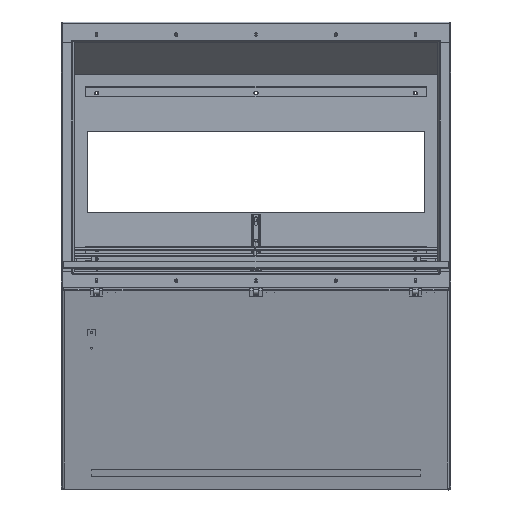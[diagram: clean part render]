
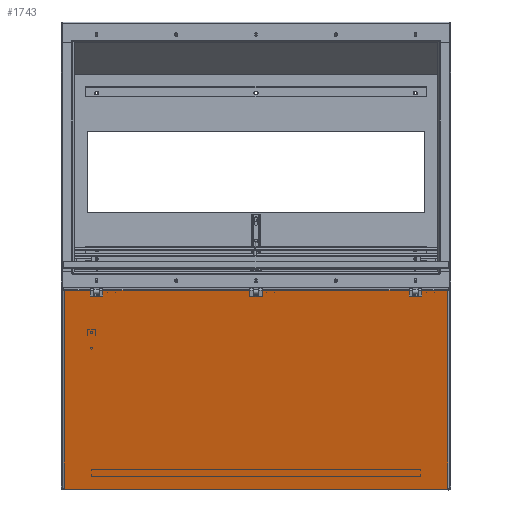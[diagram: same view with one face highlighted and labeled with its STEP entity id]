
A CAD part, top view. The second image highlights one B-rep face of the part: STEP entity #1743.
In plain terms, the highlighted planar face has unit normal (0, -0.208, 0.978) as drawn and (0, -1, 0) by its records, which use the part's own axes.
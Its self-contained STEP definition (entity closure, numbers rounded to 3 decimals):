
#1743 = ADVANCED_FACE( '', ( #2566 ), #2567, .T. );
#2566 = FACE_OUTER_BOUND( '', #4139, .T. );
#2567 = PLANE( '', #4140 );
#4139 = EDGE_LOOP( '', ( #7153, #7154, #7155, #7156, #7157, #7158, #7159, #7160, #7161, #7162, #7163, #7164, #7165, #7166, #7167, #7168 ) );
#4140 = AXIS2_PLACEMENT_3D( '', #7169, #7170, #7171 );
#7153 = ORIENTED_EDGE( '', *, *, #12210, .T. );
#7154 = ORIENTED_EDGE( '', *, *, #12211, .T. );
#7155 = ORIENTED_EDGE( '', *, *, #12212, .T. );
#7156 = ORIENTED_EDGE( '', *, *, #12213, .F. );
#7157 = ORIENTED_EDGE( '', *, *, #12214, .T. );
#7158 = ORIENTED_EDGE( '', *, *, #12215, .T. );
#7159 = ORIENTED_EDGE( '', *, *, #12216, .T. );
#7160 = ORIENTED_EDGE( '', *, *, #12217, .T. );
#7161 = ORIENTED_EDGE( '', *, *, #12218, .T. );
#7162 = ORIENTED_EDGE( '', *, *, #12219, .T. );
#7163 = ORIENTED_EDGE( '', *, *, #12220, .T. );
#7164 = ORIENTED_EDGE( '', *, *, #12221, .T. );
#7165 = ORIENTED_EDGE( '', *, *, #12222, .T. );
#7166 = ORIENTED_EDGE( '', *, *, #12223, .T. );
#7167 = ORIENTED_EDGE( '', *, *, #12224, .T. );
#7168 = ORIENTED_EDGE( '', *, *, #12225, .T. );
#7169 = CARTESIAN_POINT( '', ( -454.025, 0., -241.3 ) );
#7170 = DIRECTION( '', ( 0., -1., 0. ) );
#7171 = DIRECTION( '', ( 0., 0., -1. ) );
#12210 = EDGE_CURVE( '', #14018, #14019, #14020, .T. );
#12211 = EDGE_CURVE( '', #14019, #14021, #14022, .T. );
#12212 = EDGE_CURVE( '', #14021, #14023, #14024, .T. );
#12213 = EDGE_CURVE( '', #14025, #14023, #14026, .T. );
#12214 = EDGE_CURVE( '', #14025, #14027, #14028, .T. );
#12215 = EDGE_CURVE( '', #14027, #14029, #14030, .T. );
#12216 = EDGE_CURVE( '', #14029, #14031, #14032, .T. );
#12217 = EDGE_CURVE( '', #14031, #14033, #14034, .T. );
#12218 = EDGE_CURVE( '', #14033, #14035, #14036, .T. );
#12219 = EDGE_CURVE( '', #14035, #14037, #14038, .T. );
#12220 = EDGE_CURVE( '', #14037, #14039, #14040, .T. );
#12221 = EDGE_CURVE( '', #14039, #14041, #14042, .T. );
#12222 = EDGE_CURVE( '', #14041, #14043, #14044, .T. );
#12223 = EDGE_CURVE( '', #14043, #14045, #14046, .T. );
#12224 = EDGE_CURVE( '', #14045, #14047, #14048, .T. );
#12225 = EDGE_CURVE( '', #14047, #14018, #14049, .T. );
#14018 = VERTEX_POINT( '', #16921 );
#14019 = VERTEX_POINT( '', #16922 );
#14020 = LINE( '', #16923, #16924 );
#14021 = VERTEX_POINT( '', #16925 );
#14022 = LINE( '', #16926, #16927 );
#14023 = VERTEX_POINT( '', #16928 );
#14024 = LINE( '', #16929, #16930 );
#14025 = VERTEX_POINT( '', #16931 );
#14026 = LINE( '', #16932, #16933 );
#14027 = VERTEX_POINT( '', #16934 );
#14028 = LINE( '', #16935, #16936 );
#14029 = VERTEX_POINT( '', #16937 );
#14030 = LINE( '', #16938, #16939 );
#14031 = VERTEX_POINT( '', #16940 );
#14032 = LINE( '', #16941, #16942 );
#14033 = VERTEX_POINT( '', #16943 );
#14034 = LINE( '', #16944, #16945 );
#14035 = VERTEX_POINT( '', #16946 );
#14036 = LINE( '', #16947, #16948 );
#14037 = VERTEX_POINT( '', #16949 );
#14038 = LINE( '', #16950, #16951 );
#14039 = VERTEX_POINT( '', #16952 );
#14040 = LINE( '', #16953, #16954 );
#14041 = VERTEX_POINT( '', #16955 );
#14042 = LINE( '', #16956, #16957 );
#14043 = VERTEX_POINT( '', #16958 );
#14044 = LINE( '', #16959, #16960 );
#14045 = VERTEX_POINT( '', #16961 );
#14046 = LINE( '', #16962, #16963 );
#14047 = VERTEX_POINT( '', #16964 );
#14048 = LINE( '', #16965, #16966 );
#14049 = LINE( '', #16967, #16968 );
#16921 = CARTESIAN_POINT( '', ( 384.683, 0., -227.013 ) );
#16922 = CARTESIAN_POINT( '', ( 384.683, 0., -238.557 ) );
#16923 = CARTESIAN_POINT( '', ( 384.683, 0., -241.3 ) );
#16924 = VECTOR( '', #21340, 1000. );
#16925 = CARTESIAN_POINT( '', ( 451.282, 0., -238.557 ) );
#16926 = CARTESIAN_POINT( '', ( -451.282, 0., -238.557 ) );
#16927 = VECTOR( '', #21341, 1000. );
#16928 = CARTESIAN_POINT( '', ( 451.282, 0., 238.557 ) );
#16929 = CARTESIAN_POINT( '', ( 451.282, 0., -238.557 ) );
#16930 = VECTOR( '', #21342, 1000. );
#16931 = CARTESIAN_POINT( '', ( -451.282, 0., 238.557 ) );
#16932 = CARTESIAN_POINT( '', ( -451.282, 0., 238.557 ) );
#16933 = VECTOR( '', #21343, 1000. );
#16934 = CARTESIAN_POINT( '', ( -451.282, 0., -238.557 ) );
#16935 = CARTESIAN_POINT( '', ( -451.282, 0., 238.557 ) );
#16936 = VECTOR( '', #21344, 1000. );
#16937 = CARTESIAN_POINT( '', ( -384.683, 0., -238.557 ) );
#16938 = CARTESIAN_POINT( '', ( -451.282, 0., -238.557 ) );
#16939 = VECTOR( '', #21345, 1000. );
#16940 = CARTESIAN_POINT( '', ( -384.683, 0., -227.013 ) );
#16941 = CARTESIAN_POINT( '', ( -384.683, 0., -241.3 ) );
#16942 = VECTOR( '', #21346, 1000. );
#16943 = CARTESIAN_POINT( '', ( -364.617, 0., -227.013 ) );
#16944 = CARTESIAN_POINT( '', ( -454.025, 0., -227.013 ) );
#16945 = VECTOR( '', #21347, 1000. );
#16946 = CARTESIAN_POINT( '', ( -364.617, 0., -238.557 ) );
#16947 = CARTESIAN_POINT( '', ( -364.617, 0., -241.3 ) );
#16948 = VECTOR( '', #21348, 1000. );
#16949 = CARTESIAN_POINT( '', ( -10.033, 0., -238.557 ) );
#16950 = CARTESIAN_POINT( '', ( -451.282, 0., -238.557 ) );
#16951 = VECTOR( '', #21349, 1000. );
#16952 = CARTESIAN_POINT( '', ( -10.033, 0., -227.013 ) );
#16953 = CARTESIAN_POINT( '', ( -10.033, 0., -241.3 ) );
#16954 = VECTOR( '', #21350, 1000. );
#16955 = CARTESIAN_POINT( '', ( 10.033, 0., -227.013 ) );
#16956 = CARTESIAN_POINT( '', ( -454.025, 0., -227.013 ) );
#16957 = VECTOR( '', #21351, 1000. );
#16958 = CARTESIAN_POINT( '', ( 10.033, 0., -238.557 ) );
#16959 = CARTESIAN_POINT( '', ( 10.033, 0., -241.3 ) );
#16960 = VECTOR( '', #21352, 1000. );
#16961 = CARTESIAN_POINT( '', ( 364.617, 0., -238.557 ) );
#16962 = CARTESIAN_POINT( '', ( -451.282, 0., -238.557 ) );
#16963 = VECTOR( '', #21353, 1000. );
#16964 = CARTESIAN_POINT( '', ( 364.617, 0., -227.013 ) );
#16965 = CARTESIAN_POINT( '', ( 364.617, 0., -241.3 ) );
#16966 = VECTOR( '', #21354, 1000. );
#16967 = CARTESIAN_POINT( '', ( -454.025, 0., -227.013 ) );
#16968 = VECTOR( '', #21355, 1000. );
#21340 = DIRECTION( '', ( 0., 0., -1. ) );
#21341 = DIRECTION( '', ( 1., 0., 0. ) );
#21342 = DIRECTION( '', ( 0., 0., 1. ) );
#21343 = DIRECTION( '', ( 1., 0., 0. ) );
#21344 = DIRECTION( '', ( 0., 0., -1. ) );
#21345 = DIRECTION( '', ( 1., 0., 0. ) );
#21346 = DIRECTION( '', ( 0., 0., 1. ) );
#21347 = DIRECTION( '', ( 1., 0., 0. ) );
#21348 = DIRECTION( '', ( 0., 0., -1. ) );
#21349 = DIRECTION( '', ( 1., 0., 0. ) );
#21350 = DIRECTION( '', ( 0., 0., 1. ) );
#21351 = DIRECTION( '', ( 1., 0., 0. ) );
#21352 = DIRECTION( '', ( 0., 0., -1. ) );
#21353 = DIRECTION( '', ( 1., 0., 0. ) );
#21354 = DIRECTION( '', ( 0., 0., 1. ) );
#21355 = DIRECTION( '', ( 1., 0., 0. ) );
